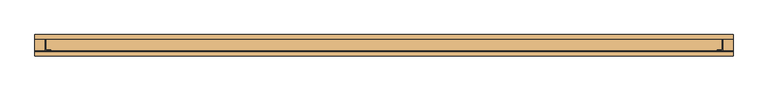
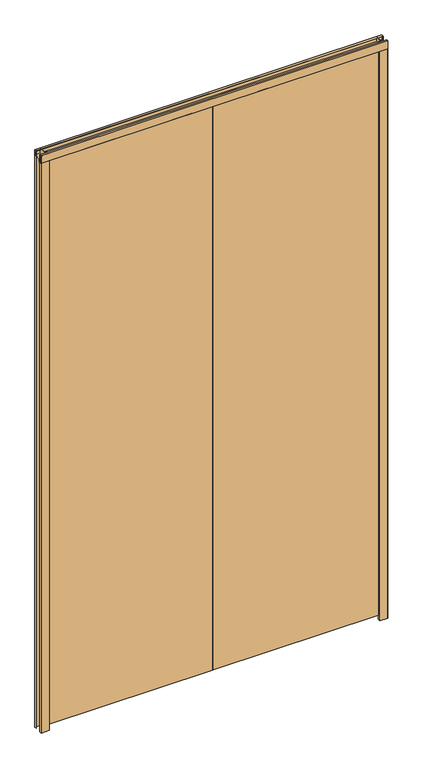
"""IFC4 building model written with IfcOpenShell, lengths in millimetres: door geometry, Puerta Metalica-lisa_doble : Puerta Metálica lisa_doble."""

from ifc_helpers import new_model, si_unit, frame, origin, origin_with_axes, place, context, project, spatial, polyline, outline, extrude, source, transform, mapped, element, save


def door_b10e47e9(model_context):
    return source(origin(), model_context, "Body", "SweptSolid", [
        extrude(outline(polyline([(15.4, 2920.0), (25.4, 2920.0), (25.4, 2894.6), (-11.6, 2894.6), (-11.6, 2881.9), (-25.4, 2881.9), (-25.4, 2920.0), (-15.4, 2920.0), (-15.4, 2919.0), (-24.4, 2919.0), (-24.4, 2882.9), (-12.6, 2882.9), (-12.6, 2895.6), (24.4, 2895.6), (24.4, 2919.0), (15.4, 2919.0), (15.4, 2920.0)])), frame((-830.0, 0.0, 0.0), z_axis=(1.0, 0.0, 0.0), x_axis=(0.0, 1.0, 0.0)), (0.0, 0.0, 1.0), 1660.0),
        extrude(outline(polyline([(-34.5, 22.9), (-3.0, 22.9), (-3.0, -8.6), (-34.5, -8.6), (-34.5, 22.9)])), frame((0.0, 0.0, 20.0), z_axis=(0.0, 0.0, 1.0), x_axis=(1.0, 0.0, 0.0)), (0.0, 0.0, 1.0), 2861.9),
        extrude(outline(polyline([(-768.5, 22.9), (-768.5, -8.6), (-800.0, -8.6), (-800.0, 22.9), (-768.5, 22.9)])), frame((0.0, 0.0, 20.0), z_axis=(0.0, 0.0, 1.0), x_axis=(1.0, 0.0, 0.0)), (0.0, 0.0, 1.0), 2861.9),
        extrude(outline(polyline([(-800.0, 25.4), (-3.0, 25.4), (-3.0, 22.9), (-800.0, 22.9), (-800.0, 25.4)])), frame((0.0, 0.0, 20.0), z_axis=(0.0, 0.0, 1.0), x_axis=(1.0, 0.0, 0.0)), (0.0, 0.0, 1.0), 2874.6),
        extrude(outline(polyline([(-3.0, -11.1), (-800.0, -11.1), (-800.0, -8.6), (-3.0, -8.6), (-3.0, -11.1)])), frame((0.0, 0.0, 20.0), z_axis=(0.0, 0.0, 1.0), x_axis=(1.0, 0.0, 0.0)), (0.0, 0.0, 1.0), 2874.6),
        extrude(outline(polyline([(34.5, 22.9), (34.5, -8.6), (3.0, -8.6), (3.0, 22.9), (34.5, 22.9)])), frame((0.0, 0.0, 20.0), z_axis=(0.0, 0.0, 1.0), x_axis=(1.0, 0.0, 0.0)), (0.0, 0.0, 1.0), 2861.9),
        extrude(outline(polyline([(768.5, 22.9), (800.0, 22.9), (800.0, -8.6), (768.5, -8.6), (768.5, 22.9)])), frame((0.0, 0.0, 20.0), z_axis=(0.0, 0.0, 1.0), x_axis=(1.0, 0.0, 0.0)), (0.0, 0.0, 1.0), 2861.9),
        extrude(outline(polyline([(800.0, 25.4), (800.0, 22.9), (3.0, 22.9), (3.0, 25.4), (800.0, 25.4)])), frame((0.0, 0.0, 20.0), z_axis=(0.0, 0.0, 1.0), x_axis=(1.0, 0.0, 0.0)), (0.0, 0.0, 1.0), 2874.6),
        extrude(outline(polyline([(3.0, -11.1), (3.0, -8.6), (800.0, -8.6), (800.0, -11.1), (3.0, -11.1)])), frame((0.0, 0.0, 20.0), z_axis=(0.0, 0.0, 1.0), x_axis=(1.0, 0.0, 0.0)), (0.0, 0.0, 1.0), 2874.6),
        extrude(outline(polyline([(-830.0, 15.4), (-830.0, 25.4), (-804.6, 25.4), (-804.6, -11.6), (-791.9, -11.6), (-791.9, -25.4), (-830.0, -25.4), (-830.0, -15.4), (-829.0, -15.4), (-829.0, -24.4), (-792.9, -24.4), (-792.9, -12.6), (-805.6, -12.6), (-805.6, 24.4), (-829.0, 24.4), (-829.0, 15.4), (-830.0, 15.4)])), origin_with_axes(), (0.0, 0.0, 1.0), 2920.0),
        extrude(outline(polyline([(830.0, 15.4), (829.0, 15.4), (829.0, 24.4), (805.6, 24.4), (805.6, -12.6), (792.9, -12.6), (792.9, -24.4), (829.0, -24.4), (829.0, -15.4), (830.0, -15.4), (830.0, -25.4), (791.9, -25.4), (791.9, -11.6), (804.6, -11.6), (804.6, 25.4), (830.0, 25.4), (830.0, 15.4)])), origin_with_axes(), (0.0, 0.0, 1.0), 2920.0),
    ])


if __name__ == "__main__":
    model = new_model("IFC4")
    model_context = context("Model", 3, world=origin())
    ifc_project = project(units=[si_unit("LENGTHUNIT", "METRE", prefix="MILLI")], contexts=[model_context])
    site = spatial("IfcSite", under=ifc_project)
    building = spatial("IfcBuilding", under=site)
    placement = place(None, origin())
    door_shape = door_b10e47e9(model_context)
    element("IfcDoor", 1, ObjectType="Puerta Metalica-lisa_doble : Puerta Metálica lisa_doble", at=placement, inside=building, context=model_context, shape_type="MappedRepresentation", body=[
        mapped(door_shape, transform((0.0, 0.0, 0.0), x_axis=(1.0, 0.0, 0.0), y_axis=(0.0, 1.0, 0.0), z_axis=(0.0, 0.0, 1.0))),
    ])
    save(model, "model.ifc")
